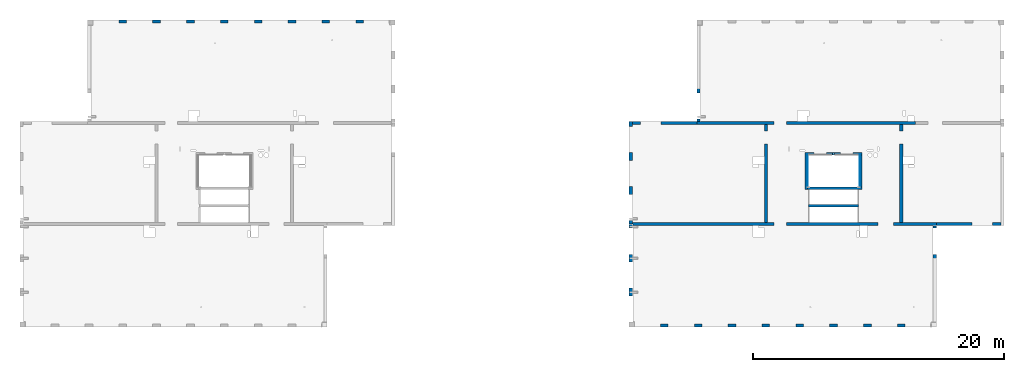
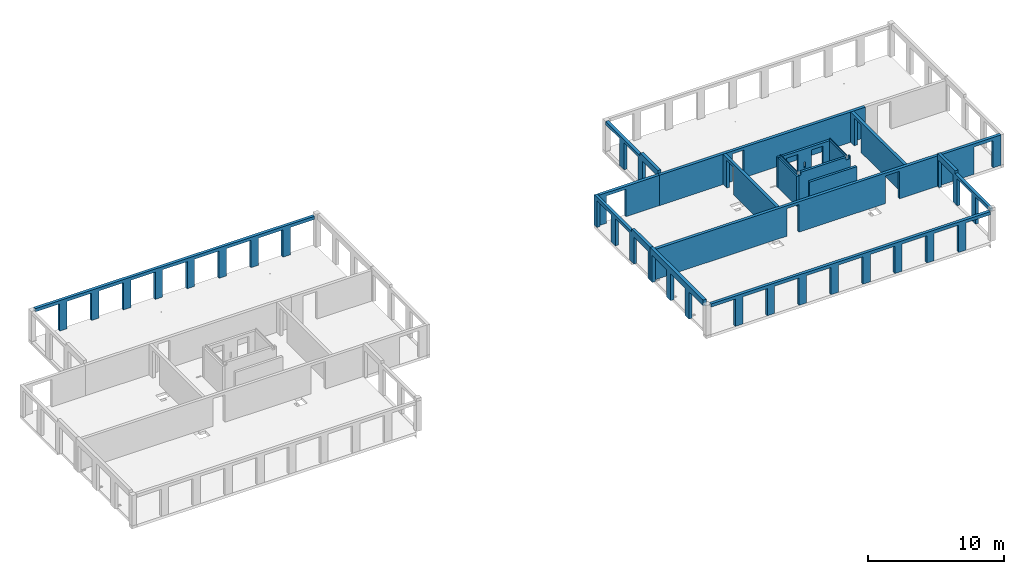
# One storey, part 5 of 11: 19 walls, 46 openings.
"""IFC2X3 building model written with IfcOpenShell, lengths in millimetres."""

from ifc_helpers import new_model, entity, si_unit, converted_unit, derived_unit, direction, frame, frame_2d, origin, place, context, subcontext, project, spatial, rectangle, extrude, material, layer, layer_set, layer_usage, type_object, element, save


model = new_model("IFC2X3")

# Units and contexts
model_context = context("Model", 3, precision=0.01, world=origin(), true_north=direction((6.12303176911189e-17, 1.0)))
body_context = subcontext(model_context, "Body", "Model", "MODEL_VIEW")
ifc_project = project(units=[si_unit("LENGTHUNIT", "METRE", prefix="MILLI"), si_unit("AREAUNIT", "SQUARE_METRE"), si_unit("VOLUMEUNIT", "CUBIC_METRE"), converted_unit("PLANEANGLEUNIT", "DEGREE", entity("IfcRatioMeasure", 0.0174532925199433), si_unit("PLANEANGLEUNIT", "RADIAN"), dimensions=[0, 0, 0, 0, 0, 0, 0]), si_unit("MASSUNIT", "GRAM", prefix="KILO"), derived_unit("MASSDENSITYUNIT", [(si_unit("MASSUNIT", "GRAM", prefix="KILO"), 1), (si_unit("LENGTHUNIT", "METRE"), -3)]), si_unit("TIMEUNIT", "SECOND"), si_unit("FREQUENCYUNIT", "HERTZ"), si_unit("THERMODYNAMICTEMPERATUREUNIT", "DEGREE_CELSIUS"), derived_unit("THERMALTRANSMITTANCEUNIT", [(si_unit("MASSUNIT", "GRAM", prefix="KILO"), 1), (si_unit("THERMODYNAMICTEMPERATUREUNIT", "KELVIN"), -1), (si_unit("TIMEUNIT", "SECOND"), -3)]), derived_unit("VOLUMETRICFLOWRATEUNIT", [(si_unit("LENGTHUNIT", "METRE"), 3), (si_unit("TIMEUNIT", "SECOND"), -1)]), si_unit("ELECTRICCURRENTUNIT", "AMPERE"), si_unit("ELECTRICVOLTAGEUNIT", "VOLT"), si_unit("POWERUNIT", "WATT"), si_unit("FORCEUNIT", "NEWTON", prefix="KILO"), si_unit("ILLUMINANCEUNIT", "LUX"), si_unit("LUMINOUSFLUXUNIT", "LUMEN"), si_unit("LUMINOUSINTENSITYUNIT", "CANDELA"), derived_unit("USERDEFINED", [(si_unit("MASSUNIT", "GRAM", prefix="KILO"), -1), (si_unit("LENGTHUNIT", "METRE"), -2), (si_unit("TIMEUNIT", "SECOND"), 3), (si_unit("LUMINOUSFLUXUNIT", "LUMEN"), 1)]), derived_unit("LINEARVELOCITYUNIT", [(si_unit("LENGTHUNIT", "METRE"), 1), (si_unit("TIMEUNIT", "SECOND"), -1)]), si_unit("PRESSUREUNIT", "PASCAL"), derived_unit("USERDEFINED", [(si_unit("LENGTHUNIT", "METRE"), -2), (si_unit("MASSUNIT", "GRAM", prefix="KILO"), 1), (si_unit("TIMEUNIT", "SECOND"), -2)])], contexts=[model_context])

# Site, building, storey
site_placement = place(None, origin())
site = spatial("IfcSite", under=ifc_project, at=site_placement, Name="Default", CompositionType="ELEMENT")
building_placement = place(site_placement, origin())
building = spatial("IfcBuilding", under=site, at=building_placement, Name="niet gebruiken", CompositionType="ELEMENT")
storey_placement = place(building_placement, frame((0.0, 0.0, 54180.0)))
storey = spatial("IfcBuildingStorey", under=building, at=storey_placement, Name="18 achttiende verdieping", CompositionType="ELEMENT", Elevation=54180.0)

# Wall, openings
ifc_material_1 = material(Name="NLRS_f2_beton ihwg")
ifc_layer_1 = layer(ifc_material_1, 250.0)
ifc_layer_set_1 = layer_set([ifc_layer_1], Name="Basic Wall:NLRS_22.21_WA_beton ihwg d=250_gen")
ifc_layer_usage_1 = layer_usage(ifc_layer_set_1, "AXIS2", "NEGATIVE", 125.0)
wall_type_1 = type_object("IfcWallType", Name="Basic Wall:NLRS_22.21_WA_beton ihwg d=250_gen", PredefinedType="STANDARD", material=ifc_layer_set_1)
wall_1_placement = place(storey_placement, frame((75770.0, 36981.0, -90.0)))
wall_1 = element("IfcWallStandardCase", 1, at=wall_1_placement, inside=storey, type_object=wall_type_1, material=ifc_layer_usage_1, Name="Basic Wall:NLRS_22.21_WA_beton ihwg d=250_gen", ObjectType="Basic Wall:NLRS_22.21_WA_beton ihwg d=250_gen", context=body_context, shape_type="SweptSolid", body=[
    extrude(rectangle(XDim=24230.0000000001, YDim=250.000000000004, at=frame_2d((12115.0, 0.0), x_axis=(-1.0, 0.0))), origin(), (0.0, 0.0, 1.0), 2719.99999999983),
])
opening_1_placement = place(wall_1_placement, origin())
element("IfcOpeningElement", 2, at=opening_1_placement, cuts=wall_1, Name="Basic Wall:NLRS_22.21_WA_beton ihwg d=250_gen", ObjectType="Opening", context=body_context, shape_type="SweptSolid", body=[
    extrude(rectangle(XDim=2470.0, YDim=1225.0, at=frame_2d((8.69704308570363e-12, -4.43378667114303e-12), x_axis=(0.0, 1.0))), frame((20192.500000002, -1399.0, 1235.0), z_axis=(0.0, 1.0, 0.0), x_axis=(-1.0, 0.0, 0.0)), (0.0, 0.0, 1.0), 3048.0),
])
opening_2_placement = place(wall_1_placement, origin())
element("IfcOpeningElement", 3, at=opening_2_placement, cuts=wall_1, Name="Basic Wall:NLRS_22.21_WA_beton ihwg d=250_gen", ObjectType="Opening", context=body_context, shape_type="SweptSolid", body=[
    extrude(rectangle(XDim=2470.0, YDim=1006.0, at=frame_2d((-8.66862137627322e-12, -4.43378667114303e-12), x_axis=(0.0, 1.0))), frame((11782.0, -1399.0, 1235.0), z_axis=(0.0, 1.0, 0.0), x_axis=(-1.0, 0.0, 0.0)), (0.0, 0.0, 1.0), 3048.0),
])
opening_3_placement = place(wall_1_placement, origin())
element("IfcOpeningElement", 4, at=opening_3_placement, cuts=wall_1, Name="Basic Wall:NLRS_22.21_WA_beton ihwg d=250_gen", ObjectType="Recess", context=body_context, shape_type="SweptSolid", body=[
    extrude(rectangle(XDim=55000.0, YDim=19.9999999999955, at=frame_2d((0.0, 4.33164615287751e-12), x_axis=(1.0, 0.0))), frame((10.0, -140.0, -14080.0), z_axis=(0.0, 1.0, 0.0), x_axis=(0.0, 0.0, -1.0)), (0.0, 0.0, 1.0), 124.999999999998),
])

# Wall, opening
ifc_layer_usage_2 = layer_usage(ifc_layer_set_1, "AXIS2", "NEGATIVE", 125.0)
wall_2_placement = place(storey_placement, frame((75770.0, 45031.0, -90.0)))
wall_2 = element("IfcWallStandardCase", 5, at=wall_2_placement, inside=storey, type_object=wall_type_1, material=ifc_layer_usage_2, Name="Basic Wall:NLRS_22.21_WA_beton ihwg d=250_gen", ObjectType="Basic Wall:NLRS_22.21_WA_beton ihwg d=250_gen", context=body_context, shape_type="SweptSolid", body=[
    extrude(rectangle(XDim=5130.0, YDim=249.999999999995, at=frame_2d((2565.0, 0.0), x_axis=(-1.0, 0.0))), origin(), (0.0, 0.0, 1.0), 2719.99999999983),
])
opening_4_placement = place(wall_2_placement, origin())
element("IfcOpeningElement", 6, at=opening_4_placement, cuts=wall_2, Name="Basic Wall:NLRS_22.21_WA_beton ihwg d=250_gen", ObjectType="Opening", context=body_context, shape_type="SweptSolid", body=[
    extrude(rectangle(XDim=2440.0, YDim=1640.0, at=frame_2d((0.0, 4.37694325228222e-12), x_axis=(1.0, 0.0))), frame((1460.0, -1649.0, 1220.0), z_axis=(0.0, 1.0, 0.0), x_axis=(0.0, 0.0, 1.0)), (0.0, 0.0, 1.0), 3048.0),
])

ifc_layer_usage_3 = layer_usage(ifc_layer_set_1, "AXIS2", "NEGATIVE", 125.0)
wall_3_placement = place(storey_placement, frame((86400.0, 44906.0, -90.0), z_axis=(0.0, 0.0, 1.0), x_axis=(0.0, -1.0, 0.0)))
wall_3 = element("IfcWallStandardCase", 7, at=wall_3_placement, inside=storey, type_object=wall_type_1, material=ifc_layer_usage_3, Name="Basic Wall:NLRS_22.21_WA_beton ihwg d=250_gen", ObjectType="Basic Wall:NLRS_22.21_WA_beton ihwg d=250_gen", context=body_context, shape_type="SweptSolid", body=[
    extrude(rectangle(XDim=7799.99999999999, YDim=250.000000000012, at=frame_2d((3900.0, 0.0), x_axis=(-1.0, 0.0))), origin(), (0.0, 0.0, 1.0), 2719.99999999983),
])
opening_5_placement = place(wall_3_placement, origin())
element("IfcOpeningElement", 8, at=opening_5_placement, cuts=wall_3, Name="Basic Wall:NLRS_22.21_WA_beton ihwg d=250_gen", ObjectType="Opening", context=body_context, shape_type="SweptSolid", body=[
    extrude(rectangle(XDim=2470.0, YDim=1006.0, at=frame_2d((-4.43378667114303e-12, 0.0), x_axis=(1.0, 0.0))), frame((1027.0, -1649.0, 1235.0), z_axis=(0.0, 1.0, 0.0), x_axis=(0.0, 0.0, 1.0)), (0.0, 0.0, 1.0), 3048.0),
])

ifc_layer_usage_4 = layer_usage(ifc_layer_set_1, "AXIS2", "NEGATIVE", 125.0)
wall_4_placement = place(storey_placement, frame((97200.0, 44906.0, -90.0), z_axis=(0.0, 0.0, 1.0), x_axis=(0.0, -1.0, 0.0)))
wall_4 = element("IfcWallStandardCase", 9, at=wall_4_placement, inside=storey, type_object=wall_type_1, material=ifc_layer_usage_4, Name="Basic Wall:NLRS_22.21_WA_beton ihwg d=250_gen", ObjectType="Basic Wall:NLRS_22.21_WA_beton ihwg d=250_gen", context=body_context, shape_type="SweptSolid", body=[
    extrude(rectangle(XDim=7799.99999999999, YDim=250.000000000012, at=frame_2d((3900.0, 0.0), x_axis=(-1.0, 0.0))), origin(), (0.0, 0.0, 1.0), 2719.99999999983),
])
opening_6_placement = place(wall_4_placement, origin())
element("IfcOpeningElement", 10, at=opening_6_placement, cuts=wall_4, Name="Basic Wall:NLRS_22.21_WA_beton ihwg d=250_gen", ObjectType="Opening", context=body_context, shape_type="SweptSolid", body=[
    extrude(rectangle(XDim=2470.0, YDim=1006.0, at=frame_2d((-4.43378667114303e-12, 0.0), x_axis=(1.0, 0.0))), frame((1027.0, -1649.0, 1235.0), z_axis=(0.0, 1.0, 0.0), x_axis=(0.0, 0.0, 1.0)), (0.0, 0.0, 1.0), 3048.0),
])

ifc_layer_usage_5 = layer_usage(ifc_layer_set_1, "AXIS2", "NEGATIVE", 125.0)
wall_5_placement = place(storey_placement, frame((80900.0, 45031.0, -90.0)))
wall_5 = element("IfcWallStandardCase", 11, at=wall_5_placement, inside=storey, type_object=wall_type_1, material=ifc_layer_usage_5, Name="Basic Wall:NLRS_22.21_WA_beton ihwg d=250_gen", ObjectType="Basic Wall:NLRS_22.21_WA_beton ihwg d=250_gen", context=body_context, shape_type="SweptSolid", body=[
    extrude(rectangle(XDim=17425.0, YDim=249.999999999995, at=frame_2d((8712.50000000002, 0.0), x_axis=(-1.0, 0.0))), origin(), (0.0, 0.0, 1.0), 2719.99999999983),
])
opening_7_placement = place(wall_5_placement, origin())
element("IfcOpeningElement", 12, at=opening_7_placement, cuts=wall_5, Name="Basic Wall:NLRS_22.21_WA_beton ihwg d=250_gen", ObjectType="Opening", context=body_context, shape_type="SweptSolid", body=[
    extrude(rectangle(XDim=2470.0, YDim=1006.0, at=frame_2d((4.43378667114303e-12, -8.66862137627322e-12), x_axis=(1.0, 0.0))), frame((6652.0, -1649.0, 1235.0), z_axis=(0.0, 1.0, 0.0), x_axis=(0.0, 0.0, 1.0)), (0.0, 0.0, 1.0), 3048.0),
])

ifc_layer_usage_6 = layer_usage(ifc_layer_set_1, "AXIS2", "NEGATIVE", 125.0)
wall_6_placement = place(storey_placement, frame((100000.0, 36981.0, -90.0)))
wall_6 = element("IfcWallStandardCase", 13, at=wall_6_placement, inside=storey, type_object=wall_type_1, material=ifc_layer_usage_6, Name="Basic Wall:NLRS_22.21_WA_beton ihwg d=250_gen", ObjectType="Basic Wall:NLRS_22.21_WA_beton ihwg d=250_gen", context=body_context, shape_type="SweptSolid", body=[
    extrude(rectangle(XDim=5150.00000000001, YDim=250.000000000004, at=frame_2d((2575.0, 0.0), x_axis=(-1.0, 0.0))), origin(), (0.0, 0.0, 1.0), 2719.99999999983),
])
opening_8_placement = place(wall_6_placement, origin())
element("IfcOpeningElement", 14, at=opening_8_placement, cuts=wall_6, Name="Basic Wall:NLRS_22.21_WA_beton ihwg d=250_gen", ObjectType="Opening", context=body_context, shape_type="SweptSolid", body=[
    extrude(rectangle(XDim=2440.0, YDim=1639.99999999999, at=frame_2d((-8.69704308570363e-12, 0.0), x_axis=(0.0, 1.0))), frame((3670.0, -1399.0, 1220.0), z_axis=(0.0, 1.0, 0.0), x_axis=(-1.0, 0.0, 0.0)), (0.0, 0.0, 1.0), 3048.0),
])

# Wall, openings
ifc_material_2 = material(Name="NLRS_f2_beton prefab")
ifc_layer_2 = layer(ifc_material_2, 250.0)
ifc_layer_set_2 = layer_set([ifc_layer_2], Name="Basic Wall:NLRS_21.21_WA_beton prefab d=250_gen")
ifc_layer_usage_7 = layer_usage(ifc_layer_set_2, "AXIS2", "NEGATIVE", 125.0)
wall_type_2 = type_object("IfcWallType", Name="Basic Wall:NLRS_21.21_WA_beton prefab d=250_gen", PredefinedType="STANDARD", material=ifc_layer_set_2)
wall_7_placement = place(storey_placement, frame((75625.0, 45156.0, -70.0), z_axis=(0.0, 0.0, 1.0), x_axis=(0.0, -1.0, 0.0)))
wall_7 = element("IfcWallStandardCase", 15, at=wall_7_placement, inside=storey, type_object=wall_type_2, material=ifc_layer_usage_7, Name="Basic Wall:NLRS_21.21_WA_beton prefab d=250_gen", ObjectType="Basic Wall:NLRS_21.21_WA_beton prefab d=250_gen", context=body_context, shape_type="SweptSolid", body=[
    extrude(rectangle(XDim=8189.99999999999, YDim=249.999999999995, at=frame_2d((4095.0, 0.0), x_axis=(-1.0, 0.0))), origin(), (0.0, 0.0, 1.0), 2949.99999999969),
])
opening_9_placement = place(wall_7_placement, origin())
element("IfcOpeningElement", 16, at=opening_9_placement, cuts=wall_7, Name="Basic Wall:NLRS_21.21_WA_beton prefab d=250_gen", ObjectType="Opening", context=body_context, shape_type="SweptSolid", body=[
    extrude(rectangle(XDim=2420.0, YDim=2080.0, at=frame_2d((0.0, 0.0), x_axis=(0.0, 1.0))), frame((1450.0, -1399.0, 1210.0), z_axis=(0.0, 1.0, 0.0), x_axis=(-1.0, 0.0, 0.0)), (0.0, 0.0, 1.0), 3048.0),
])
opening_10_placement = place(wall_7_placement, origin())
element("IfcOpeningElement", 17, at=opening_10_placement, cuts=wall_7, Name="Basic Wall:NLRS_21.21_WA_beton prefab d=250_gen", ObjectType="Opening", context=body_context, shape_type="SweptSolid", body=[
    extrude(rectangle(XDim=2420.0, YDim=2080.0, at=frame_2d((0.0, 0.0), x_axis=(0.0, 1.0))), frame((4150.0, -1399.0, 1210.0), z_axis=(0.0, 1.0, 0.0), x_axis=(-1.0, 0.0, 0.0)), (0.0, 0.0, 1.0), 3048.0),
])
opening_11_placement = place(wall_7_placement, origin())
element("IfcOpeningElement", 18, at=opening_11_placement, cuts=wall_7, Name="Basic Wall:NLRS_21.21_WA_beton prefab d=250_gen", ObjectType="Opening", context=body_context, shape_type="SweptSolid", body=[
    extrude(rectangle(XDim=2420.0, YDim=2080.0, at=frame_2d((0.0, 0.0), x_axis=(0.0, 1.0))), frame((6850.0, -1399.0, 1210.0), z_axis=(0.0, 1.0, 0.0), x_axis=(-1.0, 0.0, 0.0)), (0.0, 0.0, 1.0), 3048.0),
])
opening_12_placement = place(wall_7_placement, origin())
element("IfcOpeningElement", 19, at=opening_12_placement, cuts=wall_7, Name="Basic Wall:NLRS_21.21_WA_beton prefab d=250_gen", ObjectType="Opening", context=body_context, shape_type="SweptSolid", body=[
    extrude(rectangle(XDim=249.999999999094, YDim=5499.99999999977, at=frame_2d((0.0, 0.0), x_axis=(0.0, 1.0))), frame((2750.0, 125.0, 2825.0), z_axis=(0.0, -1.0, 0.0), x_axis=(-1.0, 0.0, 0.0)), (0.0, 0.0, 1.0), 250.0),
])

ifc_layer_usage_8 = layer_usage(ifc_layer_set_2, "AXIS2", "NEGATIVE", 125.0)
wall_8_placement = place(storey_placement, frame((81025.0, 52846.0, -70.0), z_axis=(0.0, 0.0, 1.0), x_axis=(0.0, -1.0, 0.0)))
wall_8 = element("IfcWallStandardCase", 20, at=wall_8_placement, inside=storey, type_object=wall_type_2, material=ifc_layer_usage_8, Name="Basic Wall:NLRS_21.21_WA_beton prefab d=250_gen", ObjectType="Basic Wall:NLRS_21.21_WA_beton prefab d=250_gen", context=body_context, shape_type="SweptSolid", body=[
    extrude(rectangle(XDim=7670.00000000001, YDim=250.000000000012, at=frame_2d((3835.0, 0.0), x_axis=(-1.0, 0.0))), origin(), (0.0, 0.0, 1.0), 2949.99999999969),
])
opening_13_placement = place(wall_8_placement, origin())
element("IfcOpeningElement", 21, at=opening_13_placement, cuts=wall_8, Name="Basic Wall:NLRS_21.21_WA_beton prefab d=250_gen", ObjectType="Opening", context=body_context, shape_type="SweptSolid", body=[
    extrude(rectangle(XDim=2420.0, YDim=2080.0, at=frame_2d((0.0, 0.0), x_axis=(0.0, 1.0))), frame((1040.0, -1399.0, 1210.0), z_axis=(0.0, 1.0, 0.0), x_axis=(-1.0, 0.0, 0.0)), (0.0, 0.0, 1.0), 3048.0),
])
opening_14_placement = place(wall_8_placement, origin())
element("IfcOpeningElement", 22, at=opening_14_placement, cuts=wall_8, Name="Basic Wall:NLRS_21.21_WA_beton prefab d=250_gen", ObjectType="Opening", context=body_context, shape_type="SweptSolid", body=[
    extrude(rectangle(XDim=2420.0, YDim=2080.0, at=frame_2d((0.0, 0.0), x_axis=(0.0, 1.0))), frame((3740.0, -1399.0, 1210.0), z_axis=(0.0, 1.0, 0.0), x_axis=(-1.0, 0.0, 0.0)), (0.0, 0.0, 1.0), 3048.0),
])
opening_15_placement = place(wall_8_placement, origin())
element("IfcOpeningElement", 23, at=opening_15_placement, cuts=wall_8, Name="Basic Wall:NLRS_21.21_WA_beton prefab d=250_gen", ObjectType="Opening", context=body_context, shape_type="SweptSolid", body=[
    extrude(rectangle(XDim=2420.0, YDim=2080.0, at=frame_2d((0.0, 0.0), x_axis=(0.0, 1.0))), frame((6440.0, -1399.0, 1210.0), z_axis=(0.0, 1.0, 0.0), x_axis=(-1.0, 0.0, 0.0)), (0.0, 0.0, 1.0), 3048.0),
])
opening_16_placement = place(wall_8_placement, origin())
element("IfcOpeningElement", 24, at=opening_16_placement, cuts=wall_8, Name="Basic Wall:NLRS_21.21_WA_beton prefab d=250_gen", ObjectType="Opening", context=body_context, shape_type="SweptSolid", body=[
    extrude(rectangle(XDim=249.999999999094, YDim=5089.99999999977, at=frame_2d((4.32009983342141e-12, 0.0), x_axis=(0.0, 1.0))), frame((2545.0, 125.0, 2825.0), z_axis=(0.0, -1.0, 0.0), x_axis=(-1.0, 0.0, 0.0)), (0.0, 0.0, 1.0), 250.0),
])

ifc_layer_usage_9 = layer_usage(ifc_layer_set_2, "AXIS2", "NEGATIVE", 125.0)
wall_9_placement = place(storey_placement, frame((99875.0, 29166.0, -70.0), z_axis=(0.0, 0.0, 1.0), x_axis=(0.0, 1.0, 0.0)))
wall_9 = element("IfcWallStandardCase", 25, at=wall_9_placement, inside=storey, type_object=wall_type_2, material=ifc_layer_usage_9, Name="Basic Wall:NLRS_21.21_WA_beton prefab d=250_gen", ObjectType="Basic Wall:NLRS_21.21_WA_beton prefab d=250_gen", context=body_context, shape_type="SweptSolid", body=[
    extrude(rectangle(XDim=7669.99999999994, YDim=250.000000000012, at=frame_2d((3834.99999999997, 0.0), x_axis=(-1.0, 0.0))), origin(), (0.0, 0.0, 1.0), 2949.99999999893),
])
opening_17_placement = place(wall_9_placement, origin())
element("IfcOpeningElement", 26, at=opening_17_placement, cuts=wall_9, Name="Basic Wall:NLRS_21.21_WA_beton prefab d=250_gen", ObjectType="Opening", context=body_context, shape_type="SweptSolid", body=[
    extrude(rectangle(XDim=2420.0, YDim=2080.0, at=frame_2d((-2.1600499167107e-12, 0.0), x_axis=(0.0, 1.0))), frame((1040.0, -1399.0, 1210.0), z_axis=(0.0, 1.0, 0.0), x_axis=(-1.0, 0.0, 0.0)), (0.0, 0.0, 1.0), 3048.0),
])
opening_18_placement = place(wall_9_placement, origin())
element("IfcOpeningElement", 27, at=opening_18_placement, cuts=wall_9, Name="Basic Wall:NLRS_21.21_WA_beton prefab d=250_gen", ObjectType="Opening", context=body_context, shape_type="SweptSolid", body=[
    extrude(rectangle(XDim=2420.0, YDim=2080.0, at=frame_2d((2.1600499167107e-12, 0.0), x_axis=(0.0, 1.0))), frame((6440.0, -1399.0, 1210.0), z_axis=(0.0, 1.0, 0.0), x_axis=(-1.0, 0.0, 0.0)), (0.0, 0.0, 1.0), 3048.0),
])
opening_19_placement = place(wall_9_placement, origin())
element("IfcOpeningElement", 28, at=opening_19_placement, cuts=wall_9, Name="Basic Wall:NLRS_21.21_WA_beton prefab d=250_gen", ObjectType="Opening", context=body_context, shape_type="SweptSolid", body=[
    extrude(rectangle(XDim=2420.0, YDim=2080.0, at=frame_2d((2.1600499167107e-12, 0.0), x_axis=(0.0, 1.0))), frame((3740.0, -1399.0, 1210.0), z_axis=(0.0, 1.0, 0.0), x_axis=(-1.0, 0.0, 0.0)), (0.0, 0.0, 1.0), 3048.0),
])
opening_20_placement = place(wall_9_placement, origin())
element("IfcOpeningElement", 29, at=opening_20_placement, cuts=wall_9, Name="Basic Wall:NLRS_21.21_WA_beton prefab d=250_gen", ObjectType="Opening", context=body_context, shape_type="SweptSolid", body=[
    extrude(rectangle(XDim=249.999999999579, YDim=5090.00000000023, at=frame_2d((0.0, 0.0), x_axis=(0.0, 1.0))), frame((2545.0, 125.0, 2825.0), z_axis=(0.0, -1.0, 0.0), x_axis=(-1.0, 0.0, 0.0)), (0.0, 0.0, 1.0), 250.0),
])

# Wall
ifc_layer_3 = layer(ifc_material_2, 200.0)
ifc_layer_set_3 = layer_set([ifc_layer_3], Name="Basic Wall:NLRS_21.21_WA_beton prefab d=200_gen")
ifc_layer_usage_10 = layer_usage(ifc_layer_set_3, "AXIS2", "NEGATIVE", 100.0)
wall_type_3 = type_object("IfcWallType", Name="Basic Wall:NLRS_21.21_WA_beton prefab d=200_gen", PredefinedType="STANDARD", material=ifc_layer_set_3)
wall_10_placement = place(storey_placement, frame((89800.0, 38426.0, -70.0)))
element("IfcWallStandardCase", 30, at=wall_10_placement, inside=storey, type_object=wall_type_3, material=ifc_layer_usage_10, Name="Basic Wall:NLRS_21.21_WA_beton prefab d=200_gen", ObjectType="Basic Wall:NLRS_21.21_WA_beton prefab d=200_gen", context=body_context, shape_type="SweptSolid", body=[
    extrude(rectangle(XDim=3999.99999999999, YDim=199.999999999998, at=frame_2d((2000.0, 0.0), x_axis=(-1.0, 0.0))), origin(), (0.0, 0.0, 1.0), 2950.00000000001),
])

# Wall, openings
ifc_layer_4 = layer(ifc_material_2, 200.0)
ifc_layer_set_4 = layer_set([ifc_layer_4], Name="Basic Wall:NLRS_22.21_WA_beton prefab d=200_gen")
ifc_layer_usage_11 = layer_usage(ifc_layer_set_4, "AXIS2", "NEGATIVE", 100.0)
wall_type_4 = type_object("IfcWallType", Name="Basic Wall:NLRS_22.21_WA_beton prefab d=200_gen", PredefinedType="STANDARD", material=ifc_layer_set_4)
wall_11_placement = place(storey_placement, frame((89525.0, 42596.0, -70.0)))
wall_11 = element("IfcWallStandardCase", 31, at=wall_11_placement, inside=storey, type_object=wall_type_4, material=ifc_layer_usage_11, Name="Basic Wall:NLRS_22.21_WA_beton prefab d=200_gen", ObjectType="Basic Wall:NLRS_22.21_WA_beton prefab d=200_gen", context=body_context, shape_type="SweptSolid", body=[
    extrude(rectangle(XDim=4550.00000000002, YDim=200.000000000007, at=frame_2d((2275.00000000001, 7.8159700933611e-13), x_axis=(-1.0, 0.0))), origin(), (0.0, 0.0, 1.0), 2699.99999999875),
])
opening_21_placement = place(wall_11_placement, origin())
element("IfcOpeningElement", 32, at=opening_21_placement, cuts=wall_11, Name="Basic Wall:NLRS_22.21_WA_beton prefab d=200_gen", ObjectType="Opening", context=body_context, shape_type="SweptSolid", body=[
    extrude(rectangle(XDim=2430.0, YDim=980.000000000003, at=frame_2d((0.0, -8.66862137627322e-12), x_axis=(1.0, 0.0))), frame((1219.99984910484, -1624.0, 1195.0), z_axis=(0.0, 1.0, 0.0), x_axis=(0.0, 0.0, 1.0)), (0.0, 0.0, 1.0), 3048.0),
])
opening_22_placement = place(wall_11_placement, origin())
element("IfcOpeningElement", 33, at=opening_22_placement, cuts=wall_11, Name="Basic Wall:NLRS_22.21_WA_beton prefab d=200_gen", ObjectType="Opening", context=body_context, shape_type="SweptSolid", body=[
    extrude(rectangle(XDim=2430.0, YDim=980.000000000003, at=frame_2d((0.0, -8.66862137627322e-12), x_axis=(1.0, 0.0))), frame((3329.99984910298, -1624.0, 1195.0), z_axis=(0.0, 1.0, 0.0), x_axis=(0.0, 0.0, 1.0)), (0.0, 0.0, 1.0), 3048.0),
])
opening_23_placement = place(wall_11_placement, origin())
element("IfcOpeningElement", 34, at=opening_23_placement, cuts=wall_11, Name="Basic Wall:NLRS_22.21_WA_beton prefab d=200_gen", ObjectType="Opening", context=body_context, shape_type="SweptSolid", body=[
    extrude(rectangle(XDim=505.000000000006, YDim=135.000000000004, at=frame_2d((-4.33431068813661e-12, -8.66151594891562e-12), x_axis=(1.0, 0.0))), frame((2275.0, -1624.0, 1272.50000000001), z_axis=(0.0, 1.0, 0.0), x_axis=(0.0, 0.0, 1.0)), (0.0, 0.0, 1.0), 3048.0),
])

# Wall
ifc_layer_usage_12 = layer_usage(ifc_layer_set_4, "AXIS2", "NEGATIVE", 100.0)
wall_12_placement = place(storey_placement, frame((89625.0, 42496.0, -70.0), z_axis=(0.0, 0.0, 1.0), x_axis=(0.0, -1.0, 0.0)))
element("IfcWallStandardCase", 35, at=wall_12_placement, inside=storey, type_object=wall_type_4, material=ifc_layer_usage_12, Name="Basic Wall:NLRS_22.21_WA_beton prefab d=200_gen", ObjectType="Basic Wall:NLRS_22.21_WA_beton prefab d=200_gen", context=body_context, shape_type="SweptSolid", body=[
    extrude(rectangle(XDim=2749.99999999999, YDim=199.999999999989, at=frame_2d((1375.0, 0.0), x_axis=(-1.0, 0.0))), origin(), (0.0, 0.0, 1.0), 2700.00000000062),
])

# Wall, openings
ifc_layer_usage_13 = layer_usage(ifc_layer_set_4, "AXIS2", "NEGATIVE", 100.0)
wall_13_placement = place(storey_placement, frame((94075.0, 39846.0, -70.0), z_axis=(0.0, 0.0, 1.0), x_axis=(-1.0, 0.0, 0.0)))
wall_13 = element("IfcWallStandardCase", 36, at=wall_13_placement, inside=storey, type_object=wall_type_4, material=ifc_layer_usage_13, Name="Basic Wall:NLRS_22.21_WA_beton prefab d=200_gen", ObjectType="Basic Wall:NLRS_22.21_WA_beton prefab d=200_gen", context=body_context, shape_type="SweptSolid", body=[
    extrude(rectangle(XDim=4350.00000000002, YDim=200.000000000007, at=frame_2d((2175.00000000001, 0.0), x_axis=(-1.0, 0.0))), origin(), (0.0, 0.0, 1.0), 2950.00000000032),
])
opening_24_placement = place(wall_13_placement, origin())
element("IfcOpeningElement", 37, at=opening_24_placement, cuts=wall_13, Name="Basic Wall:NLRS_22.21_WA_beton prefab d=200_gen", ObjectType="Opening", context=body_context, shape_type="SweptSolid", body=[
    extrude(rectangle(XDim=250.000000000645, YDim=275.000000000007, at=frame_2d((4.33431068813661e-12, -8.65441052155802e-12), x_axis=(1.0, 0.0))), frame((4312.5, 100.0, 2825.0), z_axis=(0.0, -1.0, 0.0), x_axis=(0.0, 0.0, 1.0)), (0.0, 0.0, 1.0), 200.0),
])
opening_25_placement = place(wall_13_placement, origin())
element("IfcOpeningElement", 38, at=opening_25_placement, cuts=wall_13, Name="Basic Wall:NLRS_22.21_WA_beton prefab d=200_gen", ObjectType="Opening", context=body_context, shape_type="SweptSolid", body=[
    extrude(rectangle(XDim=250.000000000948, YDim=275.000216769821, at=frame_2d((0.0, 0.0), x_axis=(0.0, 1.0))), frame((237.500108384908, 100.0, 2825.0), z_axis=(0.0, -1.0, 0.0), x_axis=(-1.0, 0.0, 0.0)), (0.0, 0.0, 1.0), 200.0),
])

# Wall
ifc_layer_usage_14 = layer_usage(ifc_layer_set_4, "AXIS2", "NEGATIVE", 100.0)
wall_14_placement = place(storey_placement, frame((93975.0, 39946.0, -70.0), z_axis=(0.0, 0.0, 1.0), x_axis=(0.0, 1.0, 0.0)))
element("IfcWallStandardCase", 39, at=wall_14_placement, inside=storey, type_object=wall_type_4, material=ifc_layer_usage_14, Name="Basic Wall:NLRS_22.21_WA_beton prefab d=200_gen", ObjectType="Basic Wall:NLRS_22.21_WA_beton prefab d=200_gen", context=body_context, shape_type="SweptSolid", body=[
    extrude(rectangle(XDim=2549.99999999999, YDim=199.999999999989, at=frame_2d((1275.0, 0.0), x_axis=(-1.0, 0.0))), origin(), (0.0, 0.0, 1.0), 2700.00000000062),
])

# Wall, openings
ifc_layer_5 = layer(ifc_material_1, 250.0)
ifc_layer_set_5 = layer_set([ifc_layer_5], Name="Basic Wall:NLRS_21.21_WA_beton ihwg d=250_gen")
ifc_layer_usage_15 = layer_usage(ifc_layer_set_5, "AXIS2", "NEGATIVE", 125.0)
wall_type_5 = type_object("IfcWallType", Name="Basic Wall:NLRS_21.21_WA_beton ihwg d=250_gen", PredefinedType="STANDARD", material=ifc_layer_set_5)
wall_15_placement = place(storey_placement, frame((75930.0, 28881.0, -90.0)))
wall_15 = element("IfcWallStandardCase", 40, at=wall_15_placement, inside=storey, type_object=wall_type_5, material=ifc_layer_usage_15, Name="Basic Wall:NLRS_21.21_WA_beton ihwg d=250_gen", ObjectType="Basic Wall:NLRS_21.21_WA_beton ihwg d=250_gen", context=body_context, shape_type="SweptSolid", body=[
    extrude(rectangle(XDim=23640.0000000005, YDim=250.000000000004, at=frame_2d((11820.0000000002, -8.66862137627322e-13), x_axis=(-1.0, 0.0))), origin(), (0.0, 0.0, 1.0), 2720.00000000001),
])
opening_26_placement = place(wall_15_placement, origin())
element("IfcOpeningElement", 41, at=opening_26_placement, cuts=wall_15, Name="Basic Wall:NLRS_21.21_WA_beton ihwg d=250_gen", ObjectType="Opening", context=body_context, shape_type="SweptSolid", body=[
    extrude(rectangle(XDim=2440.0, YDim=2080.0, at=frame_2d((8.64019966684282e-12, 0.0), x_axis=(0.0, 1.0))), frame((22620.0, -1399.0, 1220.0), z_axis=(0.0, 1.0, 0.0), x_axis=(-1.0, 0.0, 0.0)), (0.0, 0.0, 1.0), 3048.0),
])
opening_27_placement = place(wall_15_placement, origin())
element("IfcOpeningElement", 42, at=opening_27_placement, cuts=wall_15, Name="Basic Wall:NLRS_21.21_WA_beton ihwg d=250_gen", ObjectType="Opening", context=body_context, shape_type="SweptSolid", body=[
    extrude(rectangle(XDim=2440.0, YDim=2080.0, at=frame_2d((8.64019966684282e-12, 0.0), x_axis=(0.0, 1.0))), frame((19920.0, -1399.0, 1220.0), z_axis=(0.0, 1.0, 0.0), x_axis=(-1.0, 0.0, 0.0)), (0.0, 0.0, 1.0), 3048.0),
])
opening_28_placement = place(wall_15_placement, origin())
element("IfcOpeningElement", 43, at=opening_28_placement, cuts=wall_15, Name="Basic Wall:NLRS_21.21_WA_beton ihwg d=250_gen", ObjectType="Opening", context=body_context, shape_type="SweptSolid", body=[
    extrude(rectangle(XDim=2440.0, YDim=2080.0, at=frame_2d((8.64019966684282e-12, 0.0), x_axis=(0.0, 1.0))), frame((17220.0, -1399.0, 1220.0), z_axis=(0.0, 1.0, 0.0), x_axis=(-1.0, 0.0, 0.0)), (0.0, 0.0, 1.0), 3048.0),
])
opening_29_placement = place(wall_15_placement, origin())
element("IfcOpeningElement", 44, at=opening_29_placement, cuts=wall_15, Name="Basic Wall:NLRS_21.21_WA_beton ihwg d=250_gen", ObjectType="Opening", context=body_context, shape_type="SweptSolid", body=[
    extrude(rectangle(XDim=2440.0, YDim=2080.0, at=frame_2d((-8.64019966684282e-12, 0.0), x_axis=(0.0, 1.0))), frame((14520.0, -1399.0, 1220.0), z_axis=(0.0, 1.0, 0.0), x_axis=(-1.0, 0.0, 0.0)), (0.0, 0.0, 1.0), 3048.0),
])
opening_30_placement = place(wall_15_placement, origin())
element("IfcOpeningElement", 45, at=opening_30_placement, cuts=wall_15, Name="Basic Wall:NLRS_21.21_WA_beton ihwg d=250_gen", ObjectType="Opening", context=body_context, shape_type="SweptSolid", body=[
    extrude(rectangle(XDim=2440.0, YDim=2080.0, at=frame_2d((8.64019966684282e-12, 0.0), x_axis=(0.0, 1.0))), frame((11820.0, -1399.0, 1220.0), z_axis=(0.0, 1.0, 0.0), x_axis=(-1.0, 0.0, 0.0)), (0.0, 0.0, 1.0), 3048.0),
])
opening_31_placement = place(wall_15_placement, origin())
element("IfcOpeningElement", 46, at=opening_31_placement, cuts=wall_15, Name="Basic Wall:NLRS_21.21_WA_beton ihwg d=250_gen", ObjectType="Opening", context=body_context, shape_type="SweptSolid", body=[
    extrude(rectangle(XDim=2440.0, YDim=2080.0, at=frame_2d((8.64019966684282e-12, 0.0), x_axis=(0.0, 1.0))), frame((9120.0, -1399.0, 1220.0), z_axis=(0.0, 1.0, 0.0), x_axis=(-1.0, 0.0, 0.0)), (0.0, 0.0, 1.0), 3048.0),
])
opening_32_placement = place(wall_15_placement, origin())
element("IfcOpeningElement", 47, at=opening_32_placement, cuts=wall_15, Name="Basic Wall:NLRS_21.21_WA_beton ihwg d=250_gen", ObjectType="Opening", context=body_context, shape_type="SweptSolid", body=[
    extrude(rectangle(XDim=2440.0, YDim=2080.0, at=frame_2d((-8.64019966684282e-12, 0.0), x_axis=(0.0, 1.0))), frame((6420.0, -1399.0, 1220.0), z_axis=(0.0, 1.0, 0.0), x_axis=(-1.0, 0.0, 0.0)), (0.0, 0.0, 1.0), 3048.0),
])
opening_33_placement = place(wall_15_placement, origin())
element("IfcOpeningElement", 48, at=opening_33_placement, cuts=wall_15, Name="Basic Wall:NLRS_21.21_WA_beton ihwg d=250_gen", ObjectType="Opening", context=body_context, shape_type="SweptSolid", body=[
    extrude(rectangle(XDim=2440.0, YDim=2080.0, at=frame_2d((-8.64019966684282e-12, 0.0), x_axis=(0.0, 1.0))), frame((3720.0, -1399.0, 1220.0), z_axis=(0.0, 1.0, 0.0), x_axis=(-1.0, 0.0, 0.0)), (0.0, 0.0, 1.0), 3048.0),
])
opening_34_placement = place(wall_15_placement, origin())
element("IfcOpeningElement", 49, at=opening_34_placement, cuts=wall_15, Name="Basic Wall:NLRS_21.21_WA_beton ihwg d=250_gen", ObjectType="Opening", context=body_context, shape_type="SweptSolid", body=[
    extrude(rectangle(XDim=2440.0, YDim=2080.0, at=frame_2d((0.0, 0.0), x_axis=(0.0, 1.0))), frame((1020.0, -1399.0, 1220.0), z_axis=(0.0, 1.0, 0.0), x_axis=(-1.0, 0.0, 0.0)), (0.0, 0.0, 1.0), 3048.0),
])

ifc_layer_usage_16 = layer_usage(ifc_layer_set_5, "AXIS2", "NEGATIVE", 125.0)
wall_16_placement = place(storey_placement, frame((56370.0, 53131.0, -90.0), z_axis=(0.0, 0.0, 1.0), x_axis=(-1.0, 0.0, 0.0)))
wall_16 = element("IfcWallStandardCase", 50, at=wall_16_placement, inside=storey, type_object=wall_type_5, material=ifc_layer_usage_16, Name="Basic Wall:NLRS_21.21_WA_beton ihwg d=250_gen", ObjectType="Basic Wall:NLRS_21.21_WA_beton ihwg d=250_gen", context=body_context, shape_type="SweptSolid", body=[
    extrude(rectangle(XDim=23640.0000000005, YDim=249.999999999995, at=frame_2d((11820.0000000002, 5.82645043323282e-13), x_axis=(-1.0, 0.0))), origin(), (0.0, 0.0, 1.0), 2720.00000000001),
])
opening_35_placement = place(wall_16_placement, origin())
element("IfcOpeningElement", 51, at=opening_35_placement, cuts=wall_16, Name="Basic Wall:NLRS_21.21_WA_beton ihwg d=250_gen", ObjectType="Opening", context=body_context, shape_type="SweptSolid", body=[
    extrude(rectangle(XDim=2440.0, YDim=2080.0, at=frame_2d((-2.1600499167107e-12, 0.0), x_axis=(0.0, 1.0))), frame((22620.0, -1399.0, 1220.0), z_axis=(0.0, 1.0, 0.0), x_axis=(-1.0, 0.0, 0.0)), (0.0, 0.0, 1.0), 3048.0),
])
opening_36_placement = place(wall_16_placement, origin())
element("IfcOpeningElement", 52, at=opening_36_placement, cuts=wall_16, Name="Basic Wall:NLRS_21.21_WA_beton ihwg d=250_gen", ObjectType="Opening", context=body_context, shape_type="SweptSolid", body=[
    extrude(rectangle(XDim=2440.0, YDim=2080.0, at=frame_2d((2.1600499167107e-12, 0.0), x_axis=(0.0, 1.0))), frame((19920.0, -1399.0, 1220.0), z_axis=(0.0, 1.0, 0.0), x_axis=(-1.0, 0.0, 0.0)), (0.0, 0.0, 1.0), 3048.0),
])
opening_37_placement = place(wall_16_placement, origin())
element("IfcOpeningElement", 53, at=opening_37_placement, cuts=wall_16, Name="Basic Wall:NLRS_21.21_WA_beton ihwg d=250_gen", ObjectType="Opening", context=body_context, shape_type="SweptSolid", body=[
    extrude(rectangle(XDim=2440.0, YDim=2079.99999999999, at=frame_2d((2.1600499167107e-12, 0.0), x_axis=(0.0, 1.0))), frame((17220.0, -1399.0, 1220.0), z_axis=(0.0, 1.0, 0.0), x_axis=(-1.0, 0.0, 0.0)), (0.0, 0.0, 1.0), 3048.0),
])
opening_38_placement = place(wall_16_placement, origin())
element("IfcOpeningElement", 54, at=opening_38_placement, cuts=wall_16, Name="Basic Wall:NLRS_21.21_WA_beton ihwg d=250_gen", ObjectType="Opening", context=body_context, shape_type="SweptSolid", body=[
    extrude(rectangle(XDim=2440.0, YDim=2080.0, at=frame_2d((0.0, 0.0), x_axis=(0.0, 1.0))), frame((14520.0, -1399.0, 1220.0), z_axis=(0.0, 1.0, 0.0), x_axis=(-1.0, 0.0, 0.0)), (0.0, 0.0, 1.0), 3048.0),
])
opening_39_placement = place(wall_16_placement, origin())
element("IfcOpeningElement", 55, at=opening_39_placement, cuts=wall_16, Name="Basic Wall:NLRS_21.21_WA_beton ihwg d=250_gen", ObjectType="Opening", context=body_context, shape_type="SweptSolid", body=[
    extrude(rectangle(XDim=2440.0, YDim=2080.0, at=frame_2d((0.0, 0.0), x_axis=(0.0, 1.0))), frame((11820.0, -1399.0, 1220.0), z_axis=(0.0, 1.0, 0.0), x_axis=(-1.0, 0.0, 0.0)), (0.0, 0.0, 1.0), 3048.0),
])
opening_40_placement = place(wall_16_placement, origin())
element("IfcOpeningElement", 56, at=opening_40_placement, cuts=wall_16, Name="Basic Wall:NLRS_21.21_WA_beton ihwg d=250_gen", ObjectType="Opening", context=body_context, shape_type="SweptSolid", body=[
    extrude(rectangle(XDim=2440.0, YDim=2080.0, at=frame_2d((0.0, 0.0), x_axis=(0.0, 1.0))), frame((9120.0, -1399.0, 1220.0), z_axis=(0.0, 1.0, 0.0), x_axis=(-1.0, 0.0, 0.0)), (0.0, 0.0, 1.0), 3048.0),
])
opening_41_placement = place(wall_16_placement, origin())
element("IfcOpeningElement", 57, at=opening_41_placement, cuts=wall_16, Name="Basic Wall:NLRS_21.21_WA_beton ihwg d=250_gen", ObjectType="Opening", context=body_context, shape_type="SweptSolid", body=[
    extrude(rectangle(XDim=2440.0, YDim=2080.0, at=frame_2d((0.0, 0.0), x_axis=(0.0, 1.0))), frame((6420.0, -1399.0, 1220.0), z_axis=(0.0, 1.0, 0.0), x_axis=(-1.0, 0.0, 0.0)), (0.0, 0.0, 1.0), 3048.0),
])
opening_42_placement = place(wall_16_placement, origin())
element("IfcOpeningElement", 58, at=opening_42_placement, cuts=wall_16, Name="Basic Wall:NLRS_21.21_WA_beton ihwg d=250_gen", ObjectType="Opening", context=body_context, shape_type="SweptSolid", body=[
    extrude(rectangle(XDim=2440.0, YDim=2080.0, at=frame_2d((0.0, 0.0), x_axis=(0.0, 1.0))), frame((3720.0, -1399.0, 1220.0), z_axis=(0.0, 1.0, 0.0), x_axis=(-1.0, 0.0, 0.0)), (0.0, 0.0, 1.0), 3048.0),
])
opening_43_placement = place(wall_16_placement, origin())
element("IfcOpeningElement", 59, at=opening_43_placement, cuts=wall_16, Name="Basic Wall:NLRS_21.21_WA_beton ihwg d=250_gen", ObjectType="Opening", context=body_context, shape_type="SweptSolid", body=[
    extrude(rectangle(XDim=2440.0, YDim=2080.0, at=frame_2d((8.64019966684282e-12, 0.0), x_axis=(0.0, 1.0))), frame((1020.0, -1399.0, 1220.0), z_axis=(0.0, 1.0, 0.0), x_axis=(-1.0, 0.0, 0.0)), (0.0, 0.0, 1.0), 3048.0),
])

ifc_layer_6 = layer(ifc_material_2, 270.0)
ifc_layer_set_6 = layer_set([ifc_layer_6], Name="Basic Wall:NLRS_21.21_WA_beton prefab d=270_gen")
ifc_layer_usage_17 = layer_usage(ifc_layer_set_6, "AXIS2", "NEGATIVE", 135.0)
wall_type_6 = type_object("IfcWallType", Name="Basic Wall:NLRS_21.21_WA_beton prefab d=270_gen", PredefinedType="STANDARD", material=ifc_layer_set_6)
wall_17_placement = place(storey_placement, frame((75635.0, 36946.0, -70.0), z_axis=(0.0, 0.0, 1.0), x_axis=(0.0, -1.0, 0.0)))
wall_17 = element("IfcWallStandardCase", 60, at=wall_17_placement, inside=storey, type_object=wall_type_6, material=ifc_layer_usage_17, Name="Basic Wall:NLRS_21.21_WA_beton prefab d=270_gen", ObjectType="Basic Wall:NLRS_21.21_WA_beton prefab d=270_gen", context=body_context, shape_type="SweptSolid", body=[
    extrude(rectangle(XDim=7780.00000000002, YDim=270.000000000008, at=frame_2d((3890.00000000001, 0.0), x_axis=(-1.0, 0.0))), origin(), (0.0, 0.0, 1.0), 2949.99999999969),
])
opening_44_placement = place(wall_17_placement, origin())
element("IfcOpeningElement", 61, at=opening_44_placement, cuts=wall_17, Name="Basic Wall:NLRS_21.21_WA_beton prefab d=270_gen", ObjectType="Opening", context=body_context, shape_type="SweptSolid", body=[
    extrude(rectangle(XDim=2420.0, YDim=2080.0, at=frame_2d((-2.1600499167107e-12, 0.0), x_axis=(0.0, 1.0))), frame((1340.0, -1389.0, 1210.0), z_axis=(0.0, 1.0, 0.0), x_axis=(-1.0, 0.0, 0.0)), (0.0, 0.0, 1.0), 3048.0),
])
opening_45_placement = place(wall_17_placement, origin())
element("IfcOpeningElement", 62, at=opening_45_placement, cuts=wall_17, Name="Basic Wall:NLRS_21.21_WA_beton prefab d=270_gen", ObjectType="Opening", context=body_context, shape_type="SweptSolid", body=[
    extrude(rectangle(XDim=2420.0, YDim=2080.0, at=frame_2d((2.1600499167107e-12, 0.0), x_axis=(0.0, 1.0))), frame((4040.0, -1389.0, 1210.0), z_axis=(0.0, 1.0, 0.0), x_axis=(-1.0, 0.0, 0.0)), (0.0, 0.0, 1.0), 3048.0),
])
opening_46_placement = place(wall_17_placement, origin())
element("IfcOpeningElement", 63, at=opening_46_placement, cuts=wall_17, Name="Basic Wall:NLRS_21.21_WA_beton prefab d=270_gen", ObjectType="Opening", context=body_context, shape_type="SweptSolid", body=[
    extrude(rectangle(XDim=2420.0, YDim=2080.0, at=frame_2d((2.1600499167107e-12, 0.0), x_axis=(0.0, 1.0))), frame((6740.0, -1389.0, 1210.0), z_axis=(0.0, 1.0, 0.0), x_axis=(-1.0, 0.0, 0.0)), (0.0, 0.0, 1.0), 3048.0),
])

# Walls
ifc_layer_7 = layer(ifc_material_2, 60.0)
ifc_layer_set_7 = layer_set([ifc_layer_7], Name="Basic Wall:NLRS_22.21_WA_beton prefab d=60_gen")
ifc_layer_usage_18 = layer_usage(ifc_layer_set_7, "AXIS2", "NEGATIVE", 30.0)
wall_type_7 = type_object("IfcWallType", Name="Basic Wall:NLRS_22.21_WA_beton prefab d=60_gen", PredefinedType="STANDARD", material=ifc_layer_set_7)
wall_18_placement = place(storey_placement, frame((89695.0, 42476.0, 2630.0), z_axis=(0.0, 0.0, 1.0), x_axis=(0.0, -1.0, 0.0)))
element("IfcWallStandardCase", 64, at=wall_18_placement, inside=storey, type_object=wall_type_7, material=ifc_layer_usage_18, Name="Basic Wall:NLRS_22.21_WA_beton prefab d=60_gen", ObjectType="Basic Wall:NLRS_22.21_WA_beton prefab d=60_gen", context=body_context, shape_type="SweptSolid", body=[
    extrude(rectangle(XDim=2510.00000000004, YDim=59.9999999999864, at=frame_2d((1255.00000000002, 0.0), x_axis=(-1.0, 0.0))), origin(), (0.0, 0.0, 1.0), 250.000000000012),
])
ifc_layer_usage_19 = layer_usage(ifc_layer_set_7, "AXIS2", "POSITIVE", -30.0)
wall_19_placement = place(storey_placement, frame((93905.0, 42476.0, 2630.0), z_axis=(0.0, 0.0, 1.0), x_axis=(0.0, -1.0, 0.0)))
element("IfcWallStandardCase", 65, at=wall_19_placement, inside=storey, type_object=wall_type_7, material=ifc_layer_usage_19, Name="Basic Wall:NLRS_22.21_WA_beton prefab d=60_gen", ObjectType="Basic Wall:NLRS_22.21_WA_beton prefab d=60_gen", context=body_context, shape_type="SweptSolid", body=[
    extrude(rectangle(XDim=2510.00000000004, YDim=59.9999999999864, at=frame_2d((1255.00000000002, 0.0), x_axis=(-1.0, 0.0))), origin(), (0.0, 0.0, 1.0), 250.000000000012),
])

save(model, "model.ifc")
